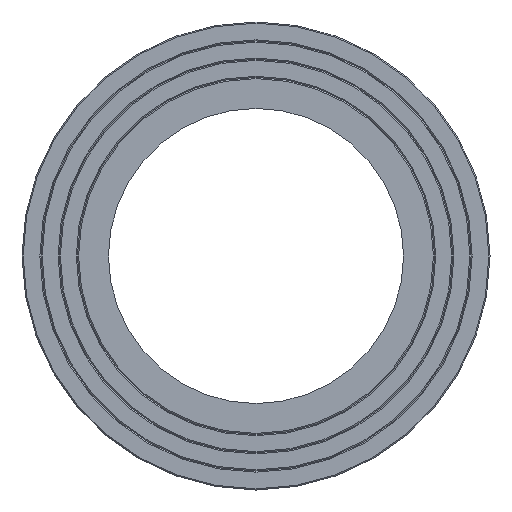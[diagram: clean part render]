
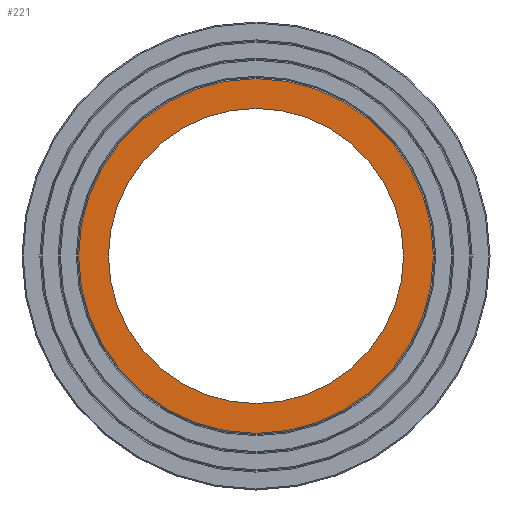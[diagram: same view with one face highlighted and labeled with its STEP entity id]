
A CAD part, left-side view. The second image highlights one B-rep face of the part: STEP entity #221.
In plain terms, the highlighted planar face has unit normal (-1, 0, 0).
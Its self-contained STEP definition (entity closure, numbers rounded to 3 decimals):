
#36=ORIENTED_EDGE('',*,*,#76,.F.);
#37=ORIENTED_EDGE('',*,*,#77,.T.);
#76=EDGE_CURVE('',#96,#96,#116,.T.);
#77=EDGE_CURVE('',#97,#97,#117,.T.);
#96=VERTEX_POINT('',#383);
#97=VERTEX_POINT('',#385);
#116=CIRCLE('',#257,194.2);
#117=CIRCLE('',#258,233.5);
#136=EDGE_LOOP('',(#36));
#137=EDGE_LOOP('',(#37));
#176=FACE_BOUND('',#136,.T.);
#177=FACE_BOUND('',#137,.T.);
#215=PLANE('',#256);
#221=ADVANCED_FACE('',(#176,#177),#215,.F.);
#256=AXIS2_PLACEMENT_3D('',#381,#301,#302);
#257=AXIS2_PLACEMENT_3D('',#382,#303,#304);
#258=AXIS2_PLACEMENT_3D('',#384,#305,#306);
#301=DIRECTION('',(1.,0.,0.));
#302=DIRECTION('',(0.,0.,-1.));
#303=DIRECTION('',(-1.,0.,0.));
#304=DIRECTION('',(0.,0.,1.));
#305=DIRECTION('',(-1.,0.,0.));
#306=DIRECTION('',(0.,0.,1.));
#381=CARTESIAN_POINT('',(0.,0.,308.));
#382=CARTESIAN_POINT('',(0.,0.,0.));
#383=CARTESIAN_POINT('',(0.,0.,194.2));
#384=CARTESIAN_POINT('',(0.,0.,0.));
#385=CARTESIAN_POINT('',(0.,0.,233.5));
